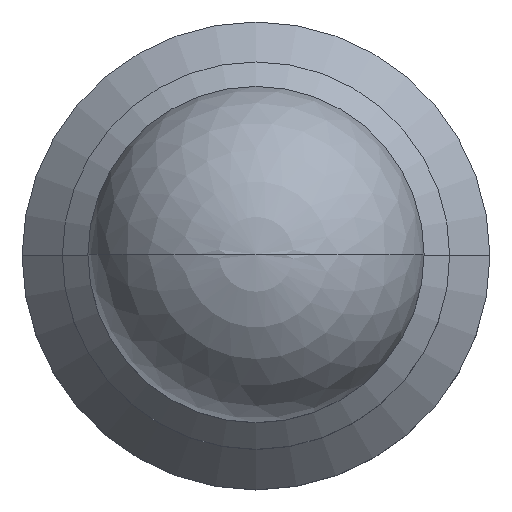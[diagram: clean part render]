
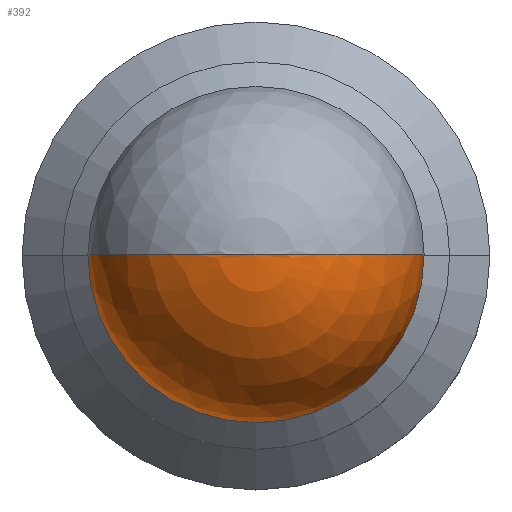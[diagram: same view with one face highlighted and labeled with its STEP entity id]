
A CAD part, top view. The second image highlights one B-rep face of the part: STEP entity #392.
In plain terms, the highlighted spherical face has radius 1.15 mm.
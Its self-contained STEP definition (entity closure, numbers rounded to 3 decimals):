
#17 = AXIS2_PLACEMENT_3D ( 'NONE', #338, #69, #79 ) ;
#42 = VERTEX_POINT ( 'NONE', #385 ) ;
#56 = EDGE_CURVE ( 'NONE', #42, #492, #477, .T. ) ;
#69 = DIRECTION ( 'NONE',  ( 0., 0., -1. ) ) ;
#74 = DIRECTION ( 'NONE',  ( 1., 0., 0. ) ) ;
#79 = DIRECTION ( 'NONE',  ( -1., 0., 0. ) ) ;
#117 = EDGE_CURVE ( 'NONE', #492, #42, #320, .T. ) ;
#119 = FACE_OUTER_BOUND ( 'NONE', #206, .T. ) ;
#135 = ORIENTED_EDGE ( 'NONE', *, *, #56, .F. ) ;
#206 = EDGE_LOOP ( 'NONE', ( #552, #135 ) ) ;
#228 = AXIS2_PLACEMENT_3D ( 'NONE', #348, #435, #401 ) ;
#303 = SPHERICAL_SURFACE ( 'NONE', #379, 1.15 ) ;
#320 = CIRCLE ( 'NONE', #228, 1.15 ) ;
#338 = CARTESIAN_POINT ( 'NONE',  ( 0., 0., 0.45 ) ) ;
#347 = CARTESIAN_POINT ( 'NONE',  ( -1.15, 0., 0.45 ) ) ;
#348 = CARTESIAN_POINT ( 'NONE',  ( 0., 0., 0.45 ) ) ;
#379 = AXIS2_PLACEMENT_3D ( 'NONE', #427, #467, #74 ) ;
#385 = CARTESIAN_POINT ( 'NONE',  ( 1.15, 0., 0.45 ) ) ;
#392 = ADVANCED_FACE ( 'NONE', ( #119 ), #303, .T. ) ;
#401 = DIRECTION ( 'NONE',  ( -1., 0., 0. ) ) ;
#427 = CARTESIAN_POINT ( 'NONE',  ( 0., 0., 0.45 ) ) ;
#435 = DIRECTION ( 'NONE',  ( 0., 1., 0. ) ) ;
#467 = DIRECTION ( 'NONE',  ( 0., 0., -1. ) ) ;
#477 = CIRCLE ( 'NONE', #17, 1.15 ) ;
#492 = VERTEX_POINT ( 'NONE', #347 ) ;
#552 = ORIENTED_EDGE ( 'NONE', *, *, #117, .F. ) ;
